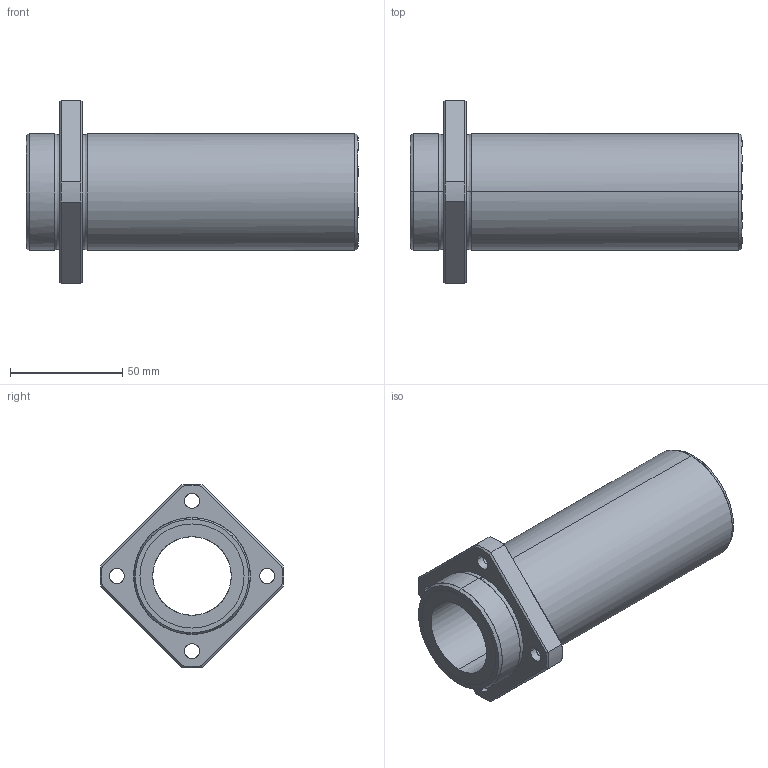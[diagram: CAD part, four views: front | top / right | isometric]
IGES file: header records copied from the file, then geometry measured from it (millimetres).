
Global section: file name: No Iges File Name specified; native system: AutoDesk Inventor R11.0; preprocessor: AutoDesk Inventor Iges Exporter R11.0; author: No Author specified; organization: No Organization specified; date: 20170921.143245; units: millimetre
Bounding box: 148 x 81.99 x 82 mm (x, y, z)
Surface area: 48016 mm2 (no closed solid volume)
Topology: 0 solids, 0 shells, 69 faces, 424 edges, 424 vertices
Faces by surface type: bspline 69
